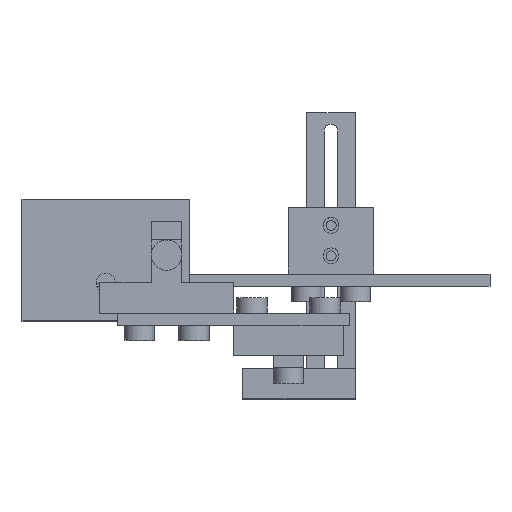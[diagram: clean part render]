
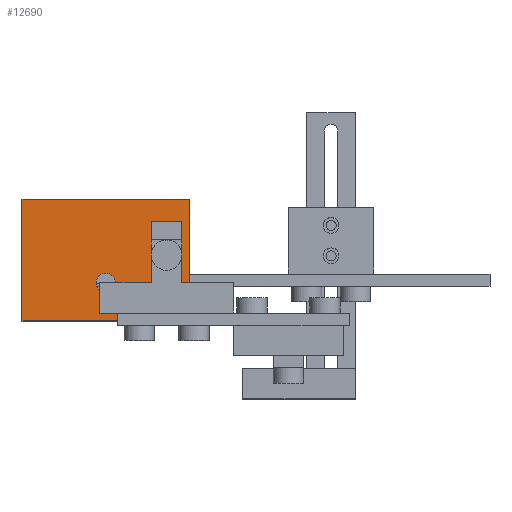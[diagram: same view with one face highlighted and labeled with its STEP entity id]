
A CAD part, top view. The second image highlights one B-rep face of the part: STEP entity #12690.
In plain terms, the highlighted planar face has unit normal (0, 0, 1).
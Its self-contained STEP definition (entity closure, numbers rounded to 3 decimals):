
#12128 = EDGE_CURVE('',#12129,#12131,#12133,.T.);
#12129 = VERTEX_POINT('',#12130);
#12130 = CARTESIAN_POINT('',(-27.5,27.5,66.));
#12131 = VERTEX_POINT('',#12132);
#12132 = CARTESIAN_POINT('',(27.5,27.5,66.));
#12133 = SURFACE_CURVE('',#12134,(#12138,#12150),.PCURVE_S1.);
#12134 = LINE('',#12135,#12136);
#12135 = CARTESIAN_POINT('',(-27.5,27.5,66.));
#12136 = VECTOR('',#12137,1.);
#12137 = DIRECTION('',(1.,0.,0.));
#12138 = PCURVE('',#12139,#12144);
#12139 = PLANE('',#12140);
#12140 = AXIS2_PLACEMENT_3D('',#12141,#12142,#12143);
#12141 = CARTESIAN_POINT('',(-27.5,27.5,66.));
#12142 = DIRECTION('',(0.,1.,0.));
#12143 = DIRECTION('',(1.,0.,0.));
#12144 = DEFINITIONAL_REPRESENTATION('',(#12145),#12149);
#12145 = LINE('',#12146,#12147);
#12146 = CARTESIAN_POINT('',(0.,0.));
#12147 = VECTOR('',#12148,1.);
#12148 = DIRECTION('',(1.,0.));
#12149 = ( GEOMETRIC_REPRESENTATION_CONTEXT(2)
PARAMETRIC_REPRESENTATION_CONTEXT() REPRESENTATION_CONTEXT('2D SPACE',''
  ) );
#12150 = PCURVE('',#12151,#12156);
#12151 = PLANE('',#12152);
#12152 = AXIS2_PLACEMENT_3D('',#12153,#12154,#12155);
#12153 = CARTESIAN_POINT('',(0.,0.,66.));
#12154 = DIRECTION('',(0.,0.,-1.));
#12155 = DIRECTION('',(-1.,0.,0.));
#12156 = DEFINITIONAL_REPRESENTATION('',(#12157),#12161);
#12157 = LINE('',#12158,#12159);
#12158 = CARTESIAN_POINT('',(27.5,27.5));
#12159 = VECTOR('',#12160,1.);
#12160 = DIRECTION('',(-1.,0.));
#12161 = ( GEOMETRIC_REPRESENTATION_CONTEXT(2)
PARAMETRIC_REPRESENTATION_CONTEXT() REPRESENTATION_CONTEXT('2D SPACE',''
  ) );
#12179 = PLANE('',#12180);
#12180 = AXIS2_PLACEMENT_3D('',#12181,#12182,#12183);
#12181 = CARTESIAN_POINT('',(27.5,12.5,66.));
#12182 = DIRECTION('',(1.,0.,0.));
#12183 = DIRECTION('',(0.,-1.,-0.));
#12233 = PLANE('',#12234);
#12234 = AXIS2_PLACEMENT_3D('',#12235,#12236,#12237);
#12235 = CARTESIAN_POINT('',(-27.5,-12.5,66.));
#12236 = DIRECTION('',(-1.,0.,0.));
#12237 = DIRECTION('',(0.,1.,0.));
#12403 = VERTEX_POINT('',#12404);
#12404 = CARTESIAN_POINT('',(3.15,0.,66.));
#12411 = CYLINDRICAL_SURFACE('',#12412,3.15);
#12412 = AXIS2_PLACEMENT_3D('',#12413,#12414,#12415);
#12413 = CARTESIAN_POINT('',(0.,0.,66.));
#12414 = DIRECTION('',(0.,0.,-1.));
#12415 = DIRECTION('',(-1.,0.,0.));
#12430 = EDGE_CURVE('',#12403,#12403,#12431,.T.);
#12431 = SURFACE_CURVE('',#12432,(#12437,#12444),.PCURVE_S1.);
#12432 = CIRCLE('',#12433,3.15);
#12433 = AXIS2_PLACEMENT_3D('',#12434,#12435,#12436);
#12434 = CARTESIAN_POINT('',(0.,0.,66.));
#12435 = DIRECTION('',(0.,-0.,1.));
#12436 = DIRECTION('',(-1.,0.,0.));
#12437 = PCURVE('',#12411,#12438);
#12438 = DEFINITIONAL_REPRESENTATION('',(#12439),#12443);
#12439 = LINE('',#12440,#12441);
#12440 = CARTESIAN_POINT('',(6.283,0.));
#12441 = VECTOR('',#12442,1.);
#12442 = DIRECTION('',(-1.,0.));
#12443 = ( GEOMETRIC_REPRESENTATION_CONTEXT(2)
PARAMETRIC_REPRESENTATION_CONTEXT() REPRESENTATION_CONTEXT('2D SPACE',''
  ) );
#12444 = PCURVE('',#12151,#12445);
#12445 = DEFINITIONAL_REPRESENTATION('',(#12446),#12454);
#12446 = ( BOUNDED_CURVE() B_SPLINE_CURVE(2,(#12447,#12448,#12449,#12450
    ,#12451,#12452,#12453),.UNSPECIFIED.,.T.,.F.)
B_SPLINE_CURVE_WITH_KNOTS((1,2,2,2,2,1),(-2.094,0.,
    2.094,4.189,6.283,8.378),
.UNSPECIFIED.) CURVE() GEOMETRIC_REPRESENTATION_ITEM()
RATIONAL_B_SPLINE_CURVE((1.,0.5,1.,0.5,1.,0.5,1.)) REPRESENTATION_ITEM(
  '') );
#12447 = CARTESIAN_POINT('',(3.15,0.));
#12448 = CARTESIAN_POINT('',(3.15,-5.456));
#12449 = CARTESIAN_POINT('',(-1.575,-2.728));
#12450 = CARTESIAN_POINT('',(-6.3,0.));
#12451 = CARTESIAN_POINT('',(-1.575,2.728));
#12452 = CARTESIAN_POINT('',(3.15,5.456));
#12453 = CARTESIAN_POINT('',(3.15,0.));
#12454 = ( GEOMETRIC_REPRESENTATION_CONTEXT(2)
PARAMETRIC_REPRESENTATION_CONTEXT() REPRESENTATION_CONTEXT('2D SPACE',''
  ) );
#12486 = EDGE_CURVE('',#12487,#12129,#12489,.T.);
#12487 = VERTEX_POINT('',#12488);
#12488 = CARTESIAN_POINT('',(-27.5,-12.5,66.));
#12489 = SURFACE_CURVE('',#12490,(#12494,#12501),.PCURVE_S1.);
#12490 = LINE('',#12491,#12492);
#12491 = CARTESIAN_POINT('',(-27.5,-12.5,66.));
#12492 = VECTOR('',#12493,1.);
#12493 = DIRECTION('',(0.,1.,0.));
#12494 = PCURVE('',#12233,#12495);
#12495 = DEFINITIONAL_REPRESENTATION('',(#12496),#12500);
#12496 = LINE('',#12497,#12498);
#12497 = CARTESIAN_POINT('',(0.,0.));
#12498 = VECTOR('',#12499,1.);
#12499 = DIRECTION('',(1.,0.));
#12500 = ( GEOMETRIC_REPRESENTATION_CONTEXT(2)
PARAMETRIC_REPRESENTATION_CONTEXT() REPRESENTATION_CONTEXT('2D SPACE',''
  ) );
#12501 = PCURVE('',#12151,#12502);
#12502 = DEFINITIONAL_REPRESENTATION('',(#12503),#12507);
#12503 = LINE('',#12504,#12505);
#12504 = CARTESIAN_POINT('',(27.5,-12.5));
#12505 = VECTOR('',#12506,1.);
#12506 = DIRECTION('',(0.,1.));
#12507 = ( GEOMETRIC_REPRESENTATION_CONTEXT(2)
PARAMETRIC_REPRESENTATION_CONTEXT() REPRESENTATION_CONTEXT('2D SPACE',''
  ) );
#12549 = PLANE('',#12550);
#12550 = AXIS2_PLACEMENT_3D('',#12551,#12552,#12553);
#12551 = CARTESIAN_POINT('',(27.5,-12.5,66.));
#12552 = DIRECTION('',(0.,-1.,-0.));
#12553 = DIRECTION('',(-1.,0.,0.));
#12564 = EDGE_CURVE('',#12565,#12487,#12567,.T.);
#12565 = VERTEX_POINT('',#12566);
#12566 = CARTESIAN_POINT('',(27.5,-12.5,66.));
#12567 = SURFACE_CURVE('',#12568,(#12572,#12579),.PCURVE_S1.);
#12568 = LINE('',#12569,#12570);
#12569 = CARTESIAN_POINT('',(27.5,-12.5,66.));
#12570 = VECTOR('',#12571,1.);
#12571 = DIRECTION('',(-1.,0.,0.));
#12572 = PCURVE('',#12549,#12573);
#12573 = DEFINITIONAL_REPRESENTATION('',(#12574),#12578);
#12574 = LINE('',#12575,#12576);
#12575 = CARTESIAN_POINT('',(0.,0.));
#12576 = VECTOR('',#12577,1.);
#12577 = DIRECTION('',(1.,0.));
#12578 = ( GEOMETRIC_REPRESENTATION_CONTEXT(2)
PARAMETRIC_REPRESENTATION_CONTEXT() REPRESENTATION_CONTEXT('2D SPACE',''
  ) );
#12579 = PCURVE('',#12151,#12580);
#12580 = DEFINITIONAL_REPRESENTATION('',(#12581),#12585);
#12581 = LINE('',#12582,#12583);
#12582 = CARTESIAN_POINT('',(-27.5,-12.5));
#12583 = VECTOR('',#12584,1.);
#12584 = DIRECTION('',(1.,0.));
#12585 = ( GEOMETRIC_REPRESENTATION_CONTEXT(2)
PARAMETRIC_REPRESENTATION_CONTEXT() REPRESENTATION_CONTEXT('2D SPACE',''
  ) );
#12635 = EDGE_CURVE('',#12131,#12565,#12636,.T.);
#12636 = SURFACE_CURVE('',#12637,(#12641,#12648),.PCURVE_S1.);
#12637 = LINE('',#12638,#12639);
#12638 = CARTESIAN_POINT('',(27.5,12.5,66.));
#12639 = VECTOR('',#12640,1.);
#12640 = DIRECTION('',(0.,-1.,-0.));
#12641 = PCURVE('',#12179,#12642);
#12642 = DEFINITIONAL_REPRESENTATION('',(#12643),#12647);
#12643 = LINE('',#12644,#12645);
#12644 = CARTESIAN_POINT('',(0.,0.));
#12645 = VECTOR('',#12646,1.);
#12646 = DIRECTION('',(1.,0.));
#12647 = ( GEOMETRIC_REPRESENTATION_CONTEXT(2)
PARAMETRIC_REPRESENTATION_CONTEXT() REPRESENTATION_CONTEXT('2D SPACE',''
  ) );
#12648 = PCURVE('',#12151,#12649);
#12649 = DEFINITIONAL_REPRESENTATION('',(#12650),#12654);
#12650 = LINE('',#12651,#12652);
#12651 = CARTESIAN_POINT('',(-27.5,12.5));
#12652 = VECTOR('',#12653,1.);
#12653 = DIRECTION('',(-0.,-1.));
#12654 = ( GEOMETRIC_REPRESENTATION_CONTEXT(2)
PARAMETRIC_REPRESENTATION_CONTEXT() REPRESENTATION_CONTEXT('2D SPACE',''
  ) );
#12690 = ADVANCED_FACE('',(#12691,#12697),#12151,.F.);
#12691 = FACE_BOUND('',#12692,.T.);
#12692 = EDGE_LOOP('',(#12693,#12694,#12695,#12696));
#12693 = ORIENTED_EDGE('',*,*,#12635,.F.);
#12694 = ORIENTED_EDGE('',*,*,#12128,.F.);
#12695 = ORIENTED_EDGE('',*,*,#12486,.F.);
#12696 = ORIENTED_EDGE('',*,*,#12564,.F.);
#12697 = FACE_BOUND('',#12698,.T.);
#12698 = EDGE_LOOP('',(#12699));
#12699 = ORIENTED_EDGE('',*,*,#12430,.F.);
